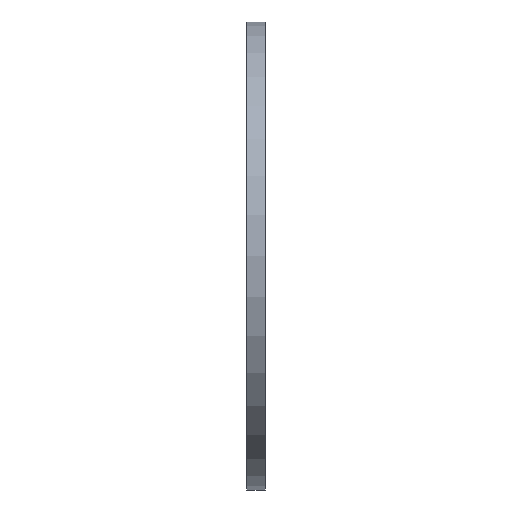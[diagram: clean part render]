
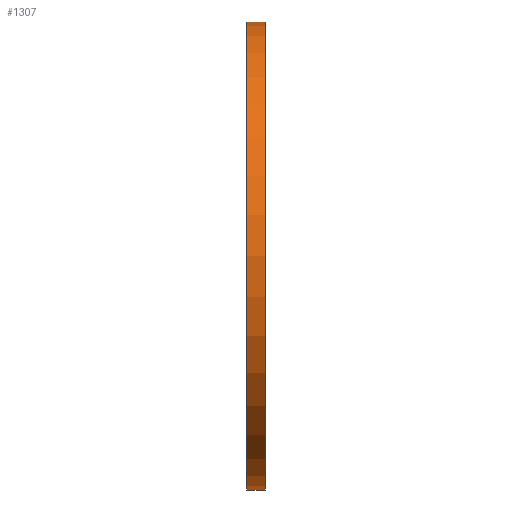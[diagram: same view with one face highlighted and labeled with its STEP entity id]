
A CAD part, left-side view. The second image highlights one B-rep face of the part: STEP entity #1307.
In plain terms, the highlighted cylindrical face has radius 252.5 mm (diameter 505 mm), a partial arc.
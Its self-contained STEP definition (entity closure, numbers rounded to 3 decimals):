
#28 = EDGE_LOOP ( 'NONE', ( #530, #60, #428, #729 ) ) ;
#60 = ORIENTED_EDGE ( 'NONE', *, *, #282, .T. ) ;
#69 = DIRECTION ( 'NONE',  ( 0., 0., 1. ) ) ;
#108 = DIRECTION ( 'NONE',  ( 0., 1., 0. ) ) ;
#117 = CARTESIAN_POINT ( 'NONE',  ( 0., 20., 0. ) ) ;
#183 = CIRCLE ( 'NONE', #304, 252.5 ) ;
#282 = EDGE_CURVE ( 'NONE', #1014, #1022, #183, .T. ) ;
#299 = CARTESIAN_POINT ( 'NONE',  ( 0., 0., -252.5 ) ) ;
#304 = AXIS2_PLACEMENT_3D ( 'NONE', #1193, #1391, #966 ) ;
#315 = LINE ( 'NONE', #1259, #359 ) ;
#357 = AXIS2_PLACEMENT_3D ( 'NONE', #117, #108, #472 ) ;
#359 = VECTOR ( 'NONE', #775, 1000. ) ;
#428 = ORIENTED_EDGE ( 'NONE', *, *, #1182, .T. ) ;
#464 = LINE ( 'NONE', #688, #883 ) ;
#472 = DIRECTION ( 'NONE',  ( 0., 0., 1. ) ) ;
#530 = ORIENTED_EDGE ( 'NONE', *, *, #642, .F. ) ;
#579 = CIRCLE ( 'NONE', #357, 252.5 ) ;
#642 = EDGE_CURVE ( 'NONE', #1014, #1164, #464, .T. ) ;
#666 = DIRECTION ( 'NONE',  ( 0., 1., 0. ) ) ;
#688 = CARTESIAN_POINT ( 'NONE',  ( 0., 38.545, -252.5 ) ) ;
#729 = ORIENTED_EDGE ( 'NONE', *, *, #1435, .F. ) ;
#744 = AXIS2_PLACEMENT_3D ( 'NONE', #1221, #903, #69 ) ;
#760 = CARTESIAN_POINT ( 'NONE',  ( 0., 0., 252.5 ) ) ;
#775 = DIRECTION ( 'NONE',  ( 0., 1., 0. ) ) ;
#785 = FACE_OUTER_BOUND ( 'NONE', #28, .T. ) ;
#883 = VECTOR ( 'NONE', #666, 1000. ) ;
#893 = CARTESIAN_POINT ( 'NONE',  ( 0., 20., -252.5 ) ) ;
#903 = DIRECTION ( 'NONE',  ( 0., 1., 0. ) ) ;
#928 = CARTESIAN_POINT ( 'NONE',  ( 0., 20., 252.5 ) ) ;
#966 = DIRECTION ( 'NONE',  ( 0., 0., 1. ) ) ;
#970 = CYLINDRICAL_SURFACE ( 'NONE', #744, 252.5 ) ;
#1014 = VERTEX_POINT ( 'NONE', #299 ) ;
#1022 = VERTEX_POINT ( 'NONE', #760 ) ;
#1164 = VERTEX_POINT ( 'NONE', #893 ) ;
#1182 = EDGE_CURVE ( 'NONE', #1022, #1467, #315, .T. ) ;
#1193 = CARTESIAN_POINT ( 'NONE',  ( 0., 0., 0. ) ) ;
#1221 = CARTESIAN_POINT ( 'NONE',  ( 0., 38.545, 0. ) ) ;
#1259 = CARTESIAN_POINT ( 'NONE',  ( 0., 38.545, 252.5 ) ) ;
#1307 = ADVANCED_FACE ( 'NONE', ( #785 ), #970, .T. ) ;
#1391 = DIRECTION ( 'NONE',  ( 0., 1., 0. ) ) ;
#1435 = EDGE_CURVE ( 'NONE', #1164, #1467, #579, .T. ) ;
#1467 = VERTEX_POINT ( 'NONE', #928 ) ;
